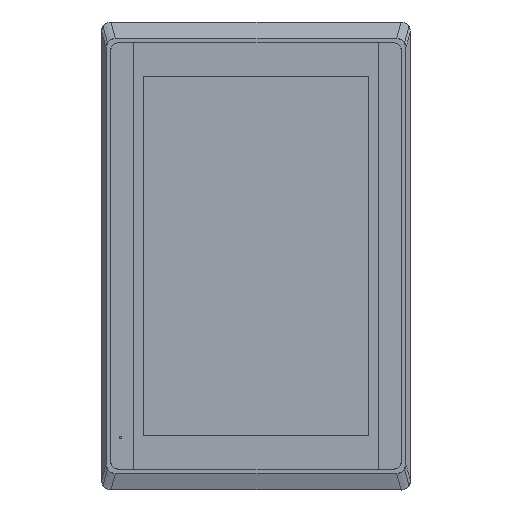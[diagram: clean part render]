
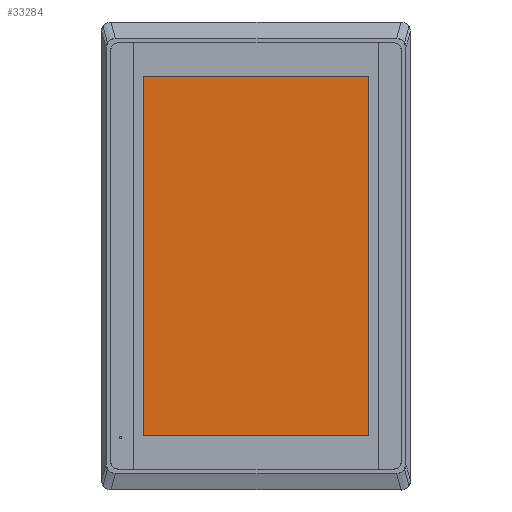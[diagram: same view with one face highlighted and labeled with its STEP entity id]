
A CAD part, top view. The second image highlights one B-rep face of the part: STEP entity #33284.
In plain terms, the highlighted planar face has unit normal (0, 0, 1).
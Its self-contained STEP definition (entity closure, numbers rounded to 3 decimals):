
#5861=DIRECTION('',(1.,0.,0.));
#5862=VECTOR('',#5861,136.2);
#5863=CARTESIAN_POINT('',(-68.1,-108.78,20.4));
#5864=LINE('',#5863,#5862);
#5865=DIRECTION('',(0.,-1.,0.));
#5866=VECTOR('',#5865,217.56);
#5867=CARTESIAN_POINT('',(-68.1,108.78,20.4));
#5868=LINE('',#5867,#5866);
#5869=DIRECTION('',(-1.,0.,0.));
#5870=VECTOR('',#5869,136.2);
#5871=CARTESIAN_POINT('',(68.1,108.78,20.4));
#5872=LINE('',#5871,#5870);
#5873=DIRECTION('',(0.,1.,0.));
#5874=VECTOR('',#5873,217.56);
#5875=CARTESIAN_POINT('',(68.1,-108.78,20.4));
#5876=LINE('',#5875,#5874);
#19287=CARTESIAN_POINT('',(-68.1,-108.78,20.4));
#19289=VERTEX_POINT('',#19287);
#19292=CARTESIAN_POINT('',(68.1,-108.78,20.4));
#19294=VERTEX_POINT('',#19292);
#19295=CARTESIAN_POINT('',(-68.1,108.78,20.4));
#19297=VERTEX_POINT('',#19295);
#19299=CARTESIAN_POINT('',(68.1,108.78,20.4));
#19301=VERTEX_POINT('',#19299);
#33273=CARTESIAN_POINT('',(0.,0.,20.4));
#33274=DIRECTION('',(0.,0.,1.));
#33275=DIRECTION('',(0.,1.,0.));
#33276=AXIS2_PLACEMENT_3D('',#33273,#33274,#33275);
#33277=PLANE('',#33276);
#33278=ORIENTED_EDGE('',*,*,#33224,.F.);
#33279=ORIENTED_EDGE('',*,*,#33241,.F.);
#33280=ORIENTED_EDGE('',*,*,#33253,.F.);
#33281=ORIENTED_EDGE('',*,*,#33266,.F.);
#33282=EDGE_LOOP('',(#33278,#33279,#33280,#33281));
#33283=FACE_OUTER_BOUND('',#33282,.F.);
#33284=ADVANCED_FACE('',(#33283),#33277,.T.);
#33224=EDGE_CURVE('',#19289,#19294,#5864,.T.);
#33241=EDGE_CURVE('',#19297,#19289,#5868,.T.);
#33253=EDGE_CURVE('',#19301,#19297,#5872,.T.);
#33266=EDGE_CURVE('',#19294,#19301,#5876,.T.);
